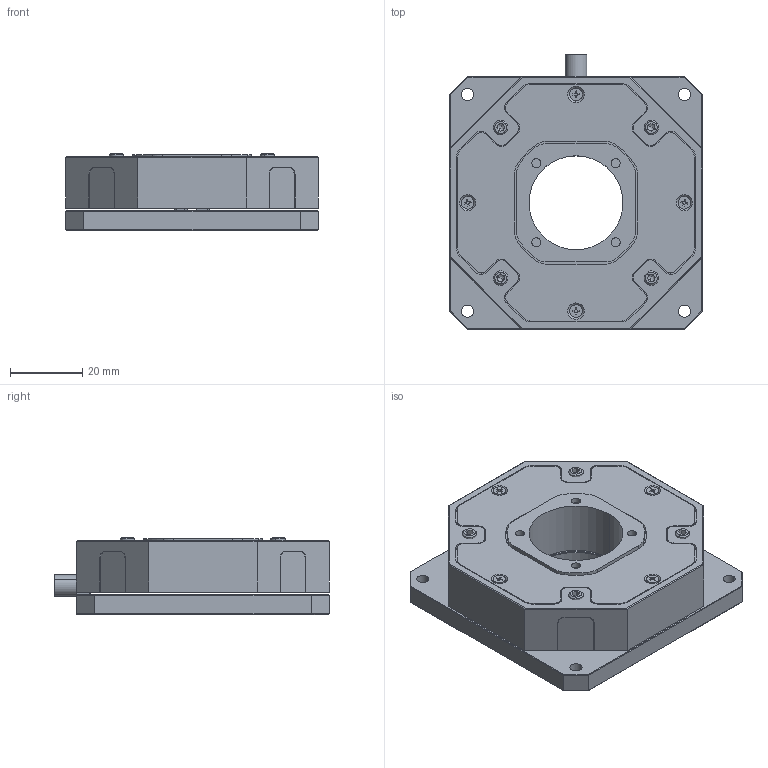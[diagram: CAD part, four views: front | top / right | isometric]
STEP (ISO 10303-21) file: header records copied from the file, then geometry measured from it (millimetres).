
FILE_DESCRIPTION (( 'STEP AP203' ), '1' );
FILE_NAME ('23027×°Åä.STEP', '2025-07-07T03:55:53', ( 'Windows User' ), ( 'P R C' ), 'SwSTEP 2.0', 'SolidWorks 2021', '' );
FILE_SCHEMA (( 'CONFIG_CONTROL_DESIGN' ));
Length unit declared in the file: millimetre
Products named in the file (1): 23027蚾饜
Bounding box: 70 x 76 x 21.36 mm (x, y, z)
Volume: 75660 mm3; surface area: 30069.2 mm2
Topology: 18 solids, 18 shells, 593 faces, 1490 edges, 931 vertices
Faces by surface type: plane 315, cylinder 200, cone 76, torus 2
Entity records: 17519 total; most frequent: DIRECTION 3134, CARTESIAN_POINT 2979, ORIENTED_EDGE 2908, EDGE_CURVE 1454, AXIS2_PLACEMENT_3D 1086, VECTOR 962, LINE 962, VERTEX_POINT 931
